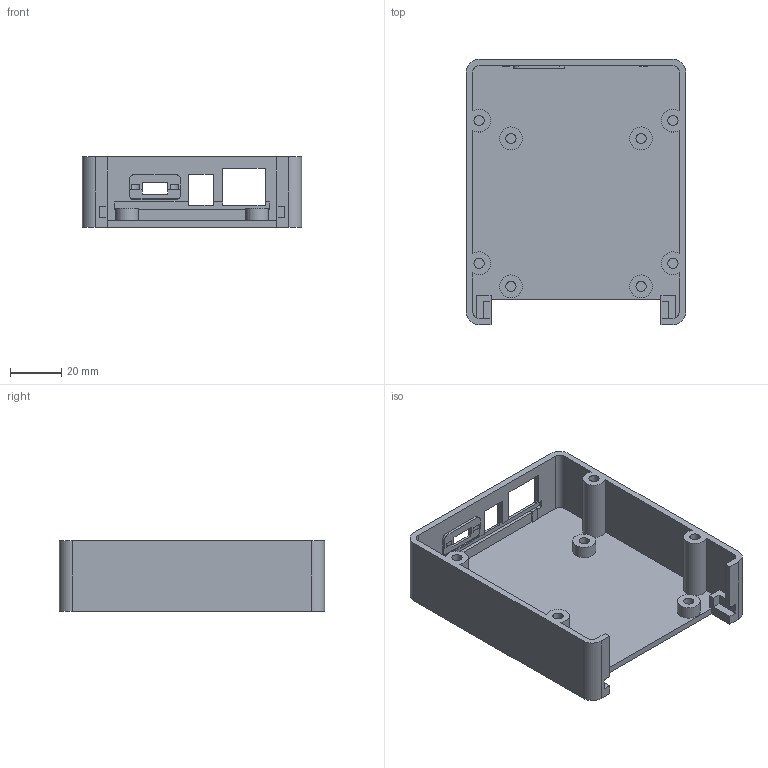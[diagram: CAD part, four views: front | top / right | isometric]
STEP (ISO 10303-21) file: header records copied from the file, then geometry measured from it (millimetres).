
FILE_DESCRIPTION(/* description */ (''),/* implementation_level */ '2;1');
FILE_NAME(/* name */ 'carrier-bottom.step',/* time_stamp */ '2026-09-11T15:42:07-07:00',/* author */ (''),/* organization */ (''),/* preprocessor_version */ 'ST-DEVELOPER v20.1',/* originating_system */ 'Autodesk Translation Framework v15.8.0.0',/* authorisation */ '');
FILE_SCHEMA (('AUTOMOTIVE_DESIGN { 1 0 10303 214 3 1 1 }'));
Length unit declared in the file: centimetre
Products named in the file (1): 01 Bottom shell - open probe guides
Bounding box: 86 x 104 x 27.6 mm (x, y, z)
Volume: 44297.6 mm3; surface area: 34791.7 mm2
Topology: 1 solids, 1 shells, 145 faces, 396 edges, 264 vertices
Faces by surface type: plane 97, cylinder 48
Full cylindrical faces by diameter (mm): 4 x8, 9 x4
Entity records: 4648 total; most frequent: CARTESIAN_POINT 816, ORIENTED_EDGE 792, DIRECTION 786, EDGE_CURVE 396, LINE 294, VECTOR 294, VERTEX_POINT 264, AXIS2_PLACEMENT_3D 246
